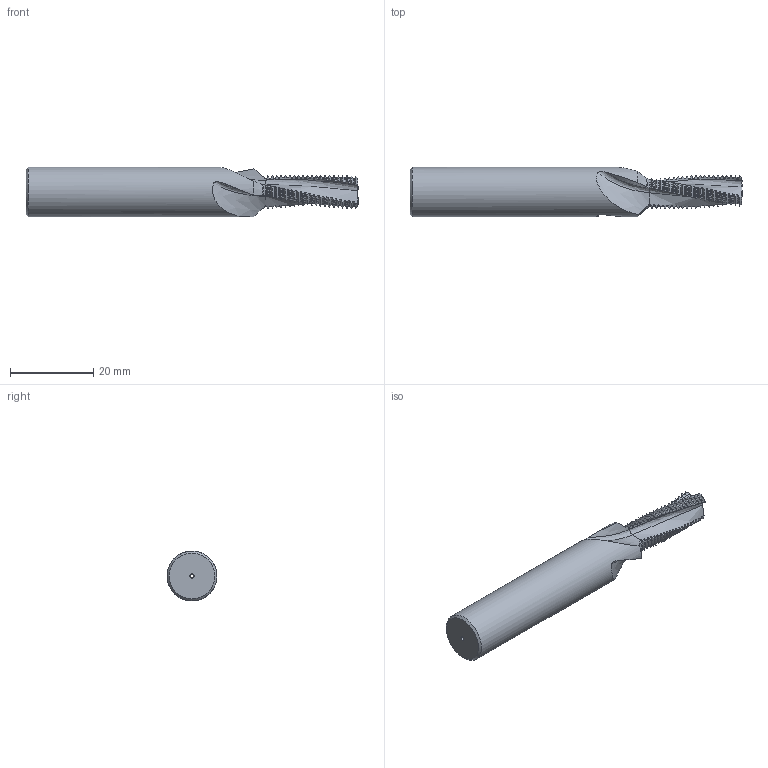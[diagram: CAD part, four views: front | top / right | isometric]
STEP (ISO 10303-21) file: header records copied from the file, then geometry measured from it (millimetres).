
FILE_DESCRIPTION(/* description */ (''),/* implementation_level */ '2;1');
FILE_NAME(/* name */ '00036451-STEP',/* time_stamp */ '2024-02-21T08:25:46+01:00',/* author */ (''),/* organization */ (''),/* preprocessor_version */ 'ST-DEVELOPER v16.5',/* originating_system */ 'HiCAD 2017 2201.0 Build 268',/* authorisation */ '');
FILE_SCHEMA (('TECHNICAL_DATA_PACKAGING'));
Products named in the file (2): Root; ROTATIONSTEIL_2
Assembly tree (1 placements, depth 2):
  Root
    ROTATIONSTEIL_2
Bounding box: 80 x 12 x 11.99 mm (x, y, z)
Volume: 6408.7 mm3; surface area: 3213.3 mm2
Topology: 1 solids, 1 shells, 416 faces, 1364 edges, 950 vertices
Faces by surface type: torus 192, cone 133, cylinder 71, bspline 18, plane 2
Full cylindrical faces by diameter (mm): 1 x1, 12 x1
Entity records: 46686 total; most frequent: CARTESIAN_POINT 23593, PRESENTATION_STYLE_ASSIGNMENT 2717, COLOUR_RGB 2717, DRAUGHTING_PRE_DEFINED_CURVE_FONT 2716, CURVE_STYLE 2716, OVER_RIDING_STYLED_ITEM 2716, ORIENTED_EDGE 2716, DIRECTION 1600
